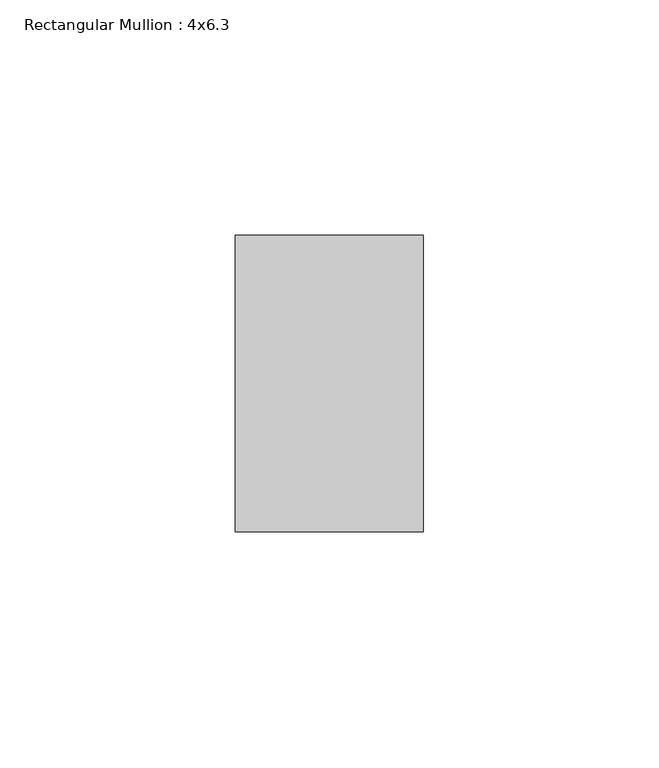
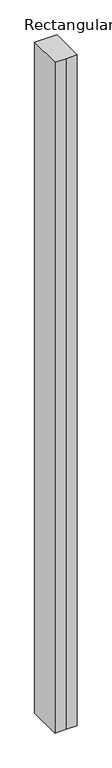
"""IFC4 building model written with IfcOpenShell, lengths in millimetres: member geometry, Rectangular Mullion : 4x6.3."""

from ifc_helpers import new_model, si_unit, frame, origin, place, context, project, spatial, polyline, outline, extrude, source, transform, mapped, element, save


def rectangular_mullion_4x6_3_c9cca40f(model_context):
    return source(origin(), model_context, "Body", "SweptSolid", [
        extrude(outline(polyline([(-20.0, 20.0), (-20.0, 83.0), (20.0, 83.0), (20.0, 20.0), (0.0, 20.0), (-20.0, 20.0)])), frame((0.0, 0.0, -1282.363857), z_axis=(0.0, 0.0, 1.0), x_axis=(1.0, 0.0, 0.0)), (0.0, 0.0, 1.0), 1282.363857),
    ])


if __name__ == "__main__":
    model = new_model("IFC4")
    model_context = context("Model", 3, world=origin())
    ifc_project = project(units=[si_unit("LENGTHUNIT", "METRE", prefix="MILLI")], contexts=[model_context])
    site = spatial("IfcSite", under=ifc_project)
    building = spatial("IfcBuilding", under=site)
    placement = place(None, origin())
    rectangular_mullion_4x6_3_shape = rectangular_mullion_4x6_3_c9cca40f(model_context)
    element("IfcMember", 1, ObjectType="Rectangular Mullion : 4x6.3", at=placement, inside=building, context=model_context, shape_type="MappedRepresentation", body=[
        mapped(rectangular_mullion_4x6_3_shape, transform((0.0, 0.0, 0.0), x_axis=(1.0, 0.0, 0.0), y_axis=(0.0, 1.0, 0.0), z_axis=(0.0, 0.0, 1.0))),
    ])
    save(model, "model.ifc")
